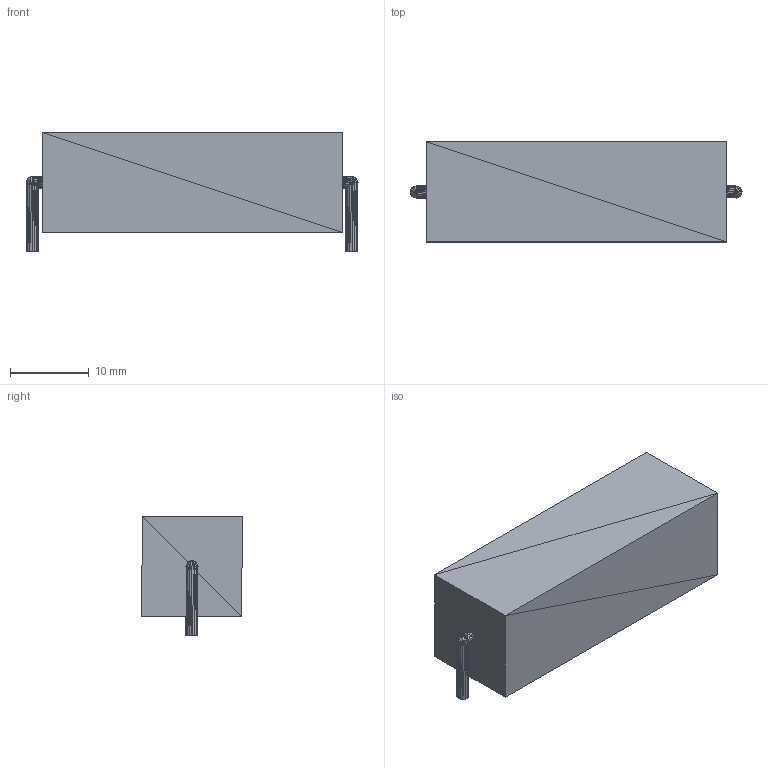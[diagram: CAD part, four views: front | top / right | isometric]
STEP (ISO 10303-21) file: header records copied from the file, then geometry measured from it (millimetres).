
FILE_DESCRIPTION(('HOOPS Exchange Step'),'2;1');
FILE_NAME('***.stp');
FILE_SCHEMA( ('AP242_MANAGED_MODEL_BASED_3D_ENGINEERING_MIM_LF {1 0 10303 442 1 1 4 }') );
Length unit declared in the file: inch
Products named in the file (4): R_10W_2; R_10W_3; R_10W_4; R_10W
Assembly tree (3 placements, depth 2):
  R_10W
    R_10W_2
    R_10W_3
    R_10W_4
Bounding box: 42.16 x 12.7 x 15.08 mm (x, y, z)
Volume: 6173.1 mm3; surface area: 2389.3 mm2
Topology: 4 solids, 7 shells, 1228 faces, 1842 edges, 628 vertices
Faces by surface type: plane 1228
Entity records: 24150 total; most frequent: DIRECTION 4314, CARTESIAN_POINT 3706, ORIENTED_EDGE 3684, VECTOR 1842, LINE 1842, EDGE_CURVE 1842, AXIS2_PLACEMENT_3D 1236, PLANE 1228
